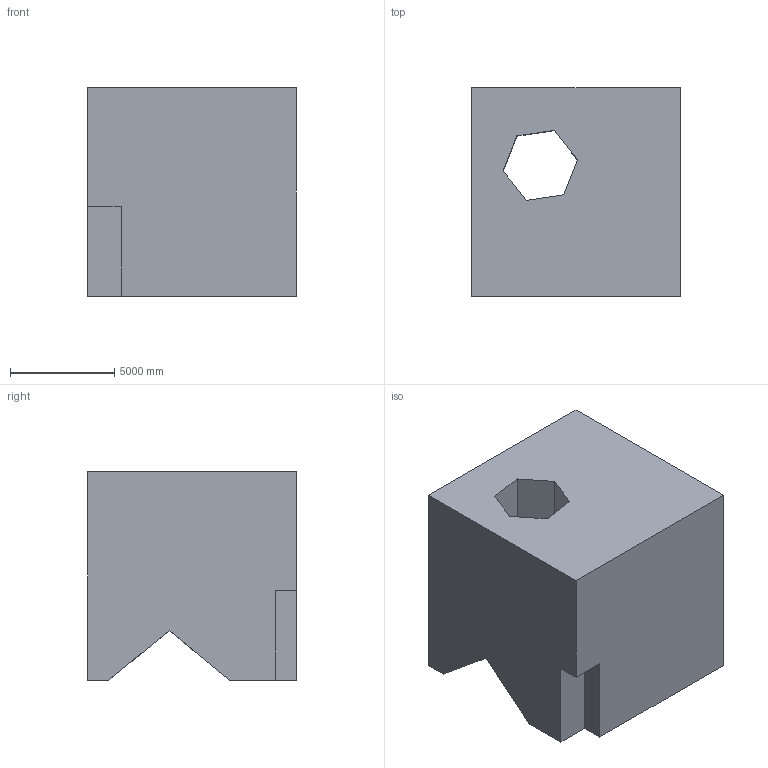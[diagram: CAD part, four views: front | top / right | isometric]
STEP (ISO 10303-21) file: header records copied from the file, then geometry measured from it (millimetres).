
FILE_DESCRIPTION (( 'STEP AP203' ), '1' );
FILE_NAME ('219.STEP', '2022-07-28T13:56:39', ( 'user' ), ( '' ), 'SwSTEP 2.0', 'SolidWorks 2021', '' );
FILE_SCHEMA (( 'CONFIG_CONTROL_DESIGN' ));
Length unit declared in the file: centimetre
Products named in the file (1): 219
Bounding box: 10000 x 10000 x 10000 mm (x, y, z)
Volume: 854350531921.2 mm3; surface area: 675629297.6 mm2
Topology: 1 solids, 1 shells, 18 faces, 51 edges, 34 vertices
Faces by surface type: plane 18
Entity records: 656 total; most frequent: CARTESIAN_POINT 104, ORIENTED_EDGE 102, DIRECTION 89, EDGE_CURVE 51, VECTOR 51, LINE 51, VERTEX_POINT 34, AXIS2_PLACEMENT_3D 19
